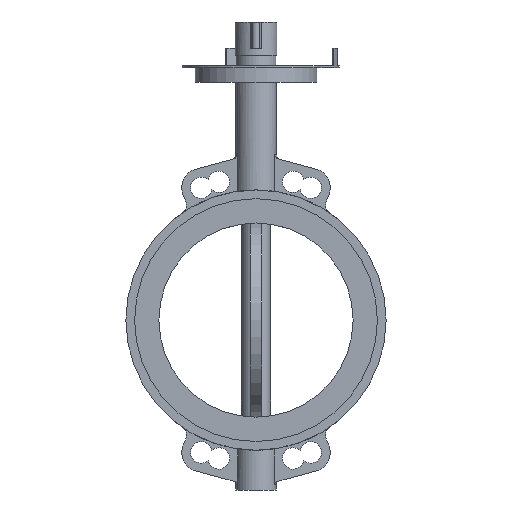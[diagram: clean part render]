
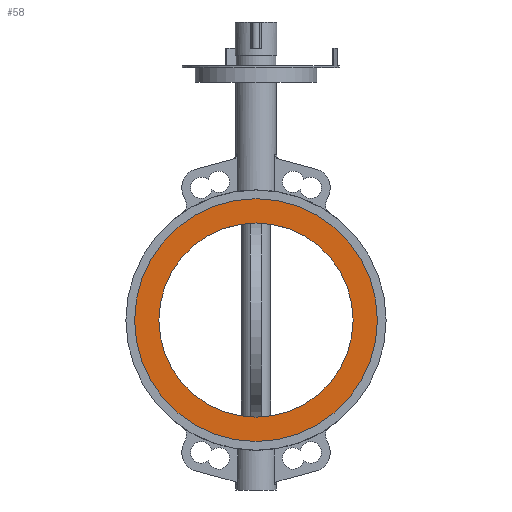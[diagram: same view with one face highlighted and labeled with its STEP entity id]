
A CAD part, left-side view. The second image highlights one B-rep face of the part: STEP entity #58.
In plain terms, the highlighted planar face has unit normal (-1, 0, 0).
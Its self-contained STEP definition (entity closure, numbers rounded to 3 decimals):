
#58=ADVANCED_FACE('',(#7024,#7026),#7028,.F.);
#7024=FACE_BOUND('',#7025,.T.);
#7025=EDGE_LOOP('',(#12978));
#7026=FACE_BOUND('',#7027,.T.);
#7027=EDGE_LOOP('',(#12979));
#7028=PLANE('',#7029);
#7029=AXIS2_PLACEMENT_3D('',#7030,#7031,#7032);
#7030=CARTESIAN_POINT('',(-30.,0.,0.));
#7031=DIRECTION('',(1.,0.,0.));
#7032=DIRECTION('',(0.,1.,0.));
#12978=ORIENTED_EDGE('',*,*,#17455,.T.);
#12979=ORIENTED_EDGE('',*,*,#17456,.T.);
#17455=EDGE_CURVE('',#19725,#19725,#19726,.F.);
#17456=EDGE_CURVE('',#19727,#19727,#19728,.T.);
#19725=VERTEX_POINT('',#23470);
#19726=CIRCLE('',#23471,125.);
#19727=VERTEX_POINT('',#23475);
#19728=CIRCLE('',#23476,100.);
#23470=CARTESIAN_POINT('',(-30.,125.,0.));
#23471=AXIS2_PLACEMENT_3D('',#23472,#23473,#23474);
#23472=CARTESIAN_POINT('',(-30.,0.,0.));
#23473=DIRECTION('',(1.,0.,0.));
#23474=DIRECTION('',(0.,1.,0.));
#23475=CARTESIAN_POINT('',(-30.,100.,0.));
#23476=AXIS2_PLACEMENT_3D('',#23477,#23478,#23479);
#23477=CARTESIAN_POINT('',(-30.,0.,0.));
#23478=DIRECTION('',(1.,0.,0.));
#23479=DIRECTION('',(0.,1.,0.));
